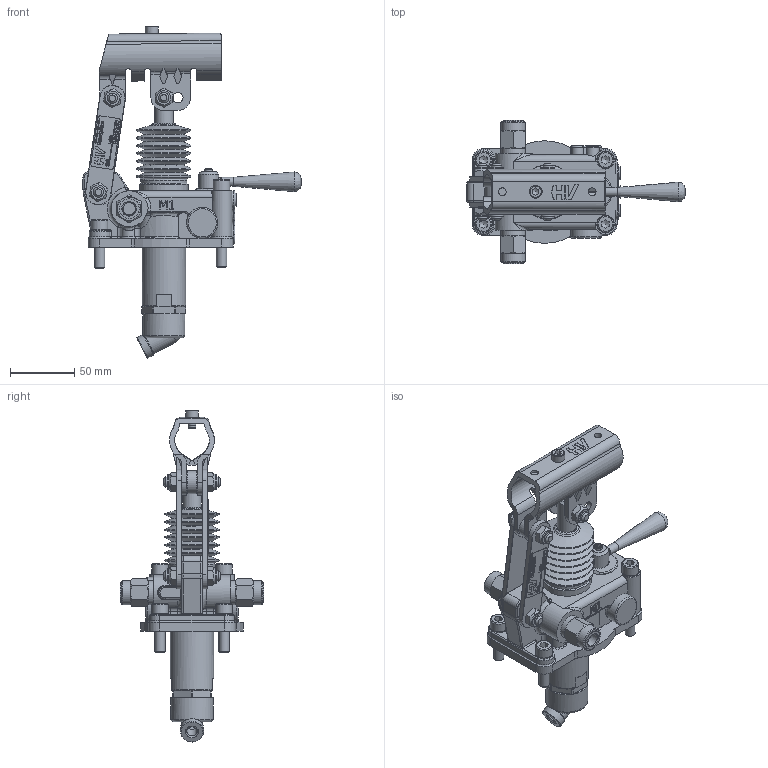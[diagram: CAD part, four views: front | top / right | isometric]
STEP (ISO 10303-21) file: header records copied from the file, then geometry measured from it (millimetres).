
FILE_DESCRIPTION((''),'2;1');
FILE_NAME('G:\HV_HYDRAULIC\AZIENDA_HV_HYDRAULIC\ARCHIVIO_DISEGNI\5_PRODOTTI_FINITI\1_POMPE_MANUALI\6060_PMDVB_12\6060.0105_PMDVB_12_cc-byAB-s_(HV)\6060.0105.stp','2024-03-07T13:39:54',('christian.scardovi'),(''),'Autodesk Inventor 2013','Autodesk Inventor 2013','');
FILE_SCHEMA(('AUTOMOTIVE_DESIGN { 1 0 10303 214 1 1 1 1 }'));
Length unit declared in the file: millimetre
Products named in the file (1): 6060.0105
Bounding box: 170 x 112 x 258.81 mm (x, y, z)
Volume: 452479.5 mm3; surface area: 124743.6 mm2
Topology: 3 solids, 3 shells, 1712 faces, 4352 edges, 2759 vertices
Faces by surface type: plane 824, cylinder 377, cone 191, bspline 184, torus 123, sphere 13
Full cylindrical faces by diameter (mm): 1.2 x4, 3 x9, 4 x5, 4.917 x13, 5 x9, 6 x8, 6.5 x3, 6.917 x2, 7 x3, 8 x15, 9 x3, 9.2 x1, 10 x13, 10.376 x1, 10.5 x2, 10.917 x4, 11.05 x6, 11.445 x2, 12 x7, 13 x4, 13.2 x1, 14 x4, 14.5 x1, 14.6 x1, 14.95 x2, 15 x1, 15.5 x2, 15.9 x2, 16 x4, 18 x4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
Entity records: 53626 total; most frequent: CARTESIAN_POINT 14456, ORIENTED_EDGE 7722, DIRECTION 7210, EDGE_CURVE 3861, VERTEX_POINT 2603, AXIS2_PLACEMENT_3D 2600, EDGE_LOOP 2191, VECTOR 2010
